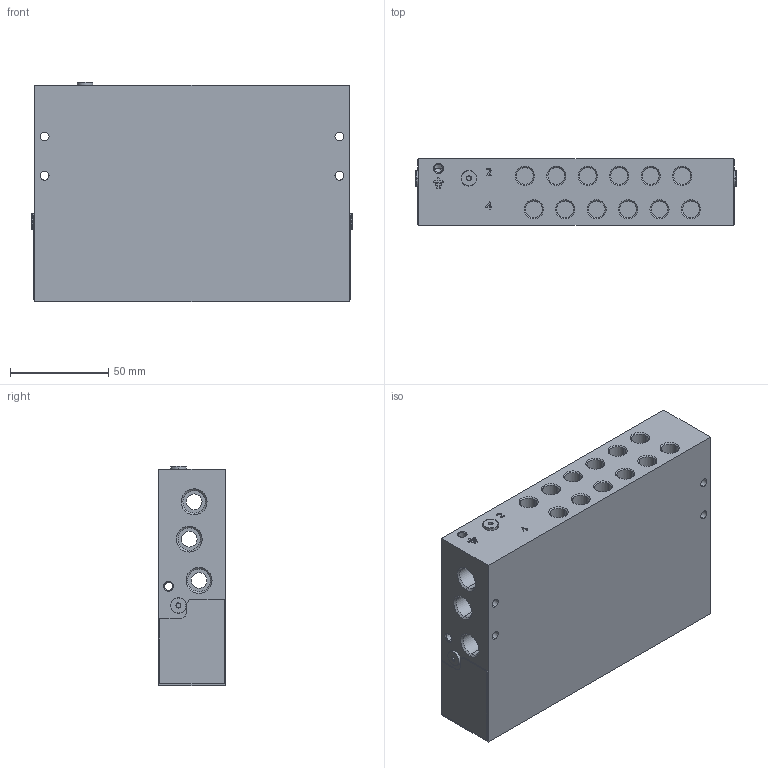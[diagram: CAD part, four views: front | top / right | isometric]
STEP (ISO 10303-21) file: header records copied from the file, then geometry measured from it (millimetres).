
FILE_DESCRIPTION (( 'STEP AP214' ), '1' );
FILE_NAME ('GÖVDE.STEP', '2026-07-24T11:23:20', ( '' ), ( '' ), 'SwSTEP 2.0', 'SolidWorks 2023', '' );
FILE_SCHEMA (( 'AUTOMOTIVE_DESIGN' ));
Length unit declared in the file: millimetre
Products named in the file (5): TGVT-M14-6-6M-S25(2); _VGVT-M14-6-RRRRBB-S25(160)_huiliuban_1; GÖVDE; _VGVT-M14-6_fajietou_1; _VGVT14_dutou_3
Assembly tree (5 placements, depth 3):
  GÖVDE
    TGVT-M14-6-6M-S25(2)
      _VGVT-M14-6-RRRRBB-S25(160)_huiliuban_1
      _VGVT14_dutou_3  x3
  _VGVT-M14-6_fajietou_1
Bounding box: 163 x 33.8 x 111.5 mm (x, y, z)
Volume: 546075.4 mm3; surface area: 80230 mm2
Topology: 4 solids, 4 shells, 510 faces, 1261 edges, 812 vertices
Faces by surface type: cylinder 219, plane 205, cone 86
Entity records: 14680 total; most frequent: CARTESIAN_POINT 2896, DIRECTION 2583, ORIENTED_EDGE 2322, EDGE_CURVE 1161, AXIS2_PLACEMENT_3D 965, VERTEX_POINT 756, LINE 653, VECTOR 653
